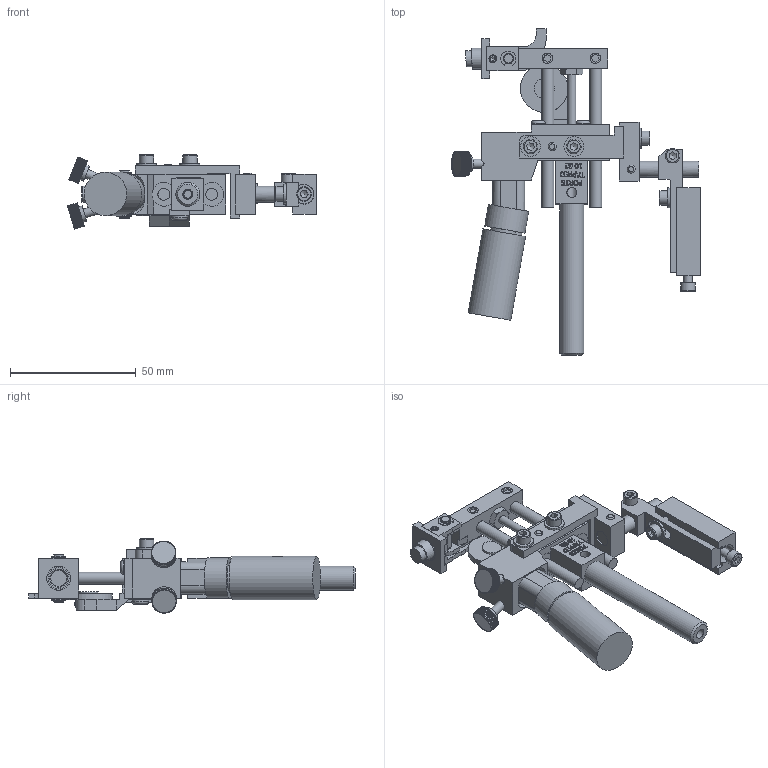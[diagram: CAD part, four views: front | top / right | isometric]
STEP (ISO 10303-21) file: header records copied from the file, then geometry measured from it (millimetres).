
FILE_DESCRIPTION((''),'2;1');
FILE_NAME('C:\Documents and Settings\Ron\My Documents\Inventor\Sprinter Drawing\Machines in Inventor\Model 22\Dot\1-fourth\Std\Brkt\90\Model 22 STD 1-4 dot 90 deg w brkt.stp','2009-01-14T08:10:56',('Ron'),(''),'Autodesk Inventor 2008','Autodesk Inventor 2008','');
FILE_SCHEMA(('AUTOMOTIVE_DESIGN { 1 0 10303 214 1 1 1 1 }'));
Length unit declared in the file: inch
Products named in the file (1): Model 22 STD 1-4 dot 90 deg w brkt
Bounding box: 99.17 x 130.21 x 29.56 mm (x, y, z)
Volume: 56875.6 mm3; surface area: 34076.8 mm2
Topology: 35 solids, 35 shells, 4738 faces, 13103 edges, 8694 vertices
Faces by surface type: plane 2893, bspline 1291, cylinder 484, cone 56, torus 14
Full cylindrical faces by diameter (mm): 2.845 x3, 2.946 x2, 3.175 x4, 3.505 x7, 3.556 x2, 3.658 x2, 3.876 x1, 3.962 x9, 4.064 x1, 4.166 x3, 4.648 x2, 4.699 x1, 4.75 x1, 4.763 x2, 4.775 x2, 4.788 x1, 5.41 x2, 5.74 x6, 6.096 x1, 6.325 x2, 6.35 x4, 6.477 x1, 6.655 x1, 7.925 x4, 7.938 x1, 8.128 x1, 8.334 x1, 9.462 x1, 9.525 x1, 10.922 x1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
Entity records: 165512 total; most frequent: CARTESIAN_POINT 49153, ORIENTED_EDGE 25654, DIRECTION 18354, EDGE_CURVE 12827, VECTOR 9046, LINE 9046, VERTEX_POINT 8597, EDGE_LOOP 5262
